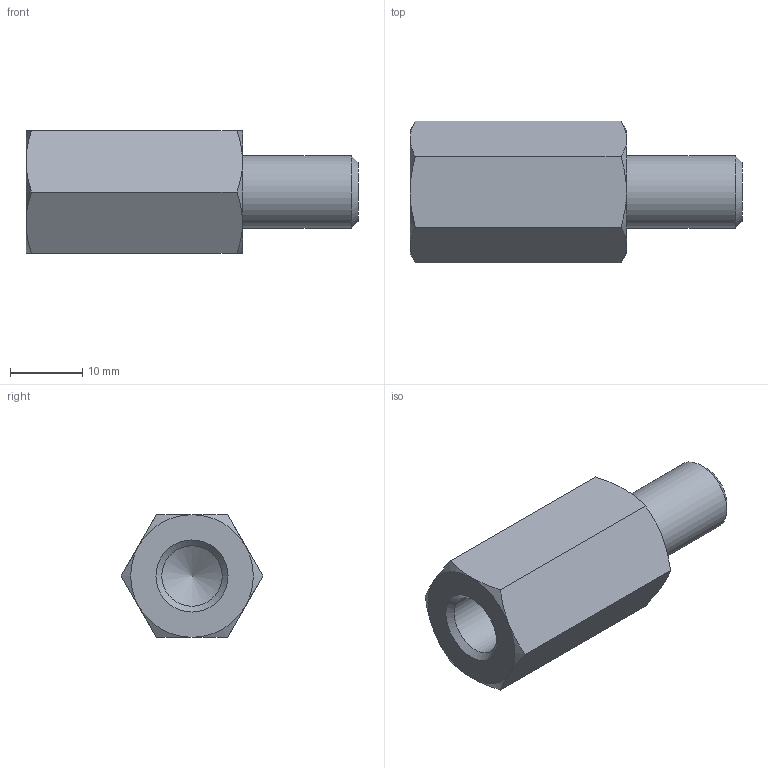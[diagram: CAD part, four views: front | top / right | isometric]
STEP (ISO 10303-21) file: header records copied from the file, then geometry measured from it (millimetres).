
FILE_DESCRIPTION( ( 'STEP AP203' ), '1' );
FILE_NAME( 'C:/Temp/Ganter_Step_05_03_2020/data/3_2/gn6220/gn6220_st/Spacer GN 6220-ST-M10-30-B.stp', '2020-03-13T05:42:52', ( 'License CC BY-ND 4.0' ), ( 'CADENAS' ), ' ', 'PARTsolutions', ' ' );
FILE_SCHEMA( ( 'CONFIG_CONTROL_DESIGN' ) );
Length unit declared in the file: millimetre
Products named in the file (1): _Spacer GN 6220-ST-M10-30-B
Bounding box: 46 x 19.63 x 17 mm (x, y, z)
Volume: 7292.4 mm3; surface area: 3391.7 mm2
Topology: 1 solids, 1 shells, 26 faces, 55 edges, 32 vertices
Faces by surface type: cone 15, plane 9, cylinder 2
Full cylindrical faces by diameter (mm): 8.376 x1, 10 x1
Entity records: 778 total; most frequent: CARTESIAN_POINT 242, DIRECTION 96, ORIENTED_EDGE 96, EDGE_CURVE 48, AXIS2_PLACEMENT_3D 45, EDGE_LOOP 32, VERTEX_POINT 31, FACE_OUTER_BOUND 28
